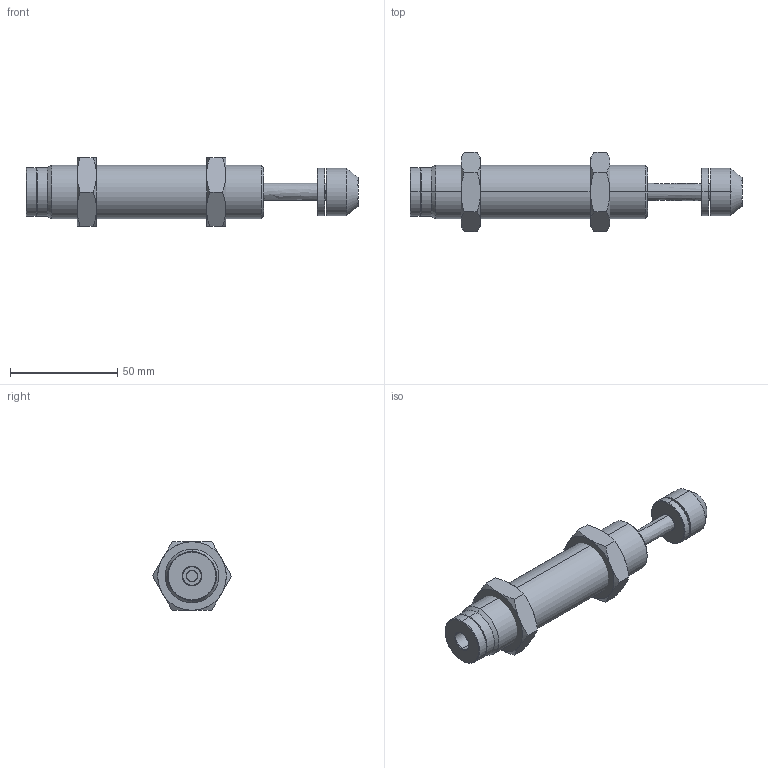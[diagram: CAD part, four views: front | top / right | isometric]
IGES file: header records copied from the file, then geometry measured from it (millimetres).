
Start section: SolidWorks IGES file using analytic representation for surfaces
Global section: file name: D:\IGS跡宒\AC2525.IGS,1; native system: 5HSolidWorks 2013; preprocessor: SolidWorks 2013; author: Administrator; date: 160406.152237; units: inch
Bounding box: 155 x 36.95 x 32.05 mm (x, y, z)
Surface area: 18007.1 mm2 (no closed solid volume)
Topology: 0 solids, 0 shells, 99 faces, 1560 edges, 1560 vertices
Faces by surface type: revolution 74, bspline 25
